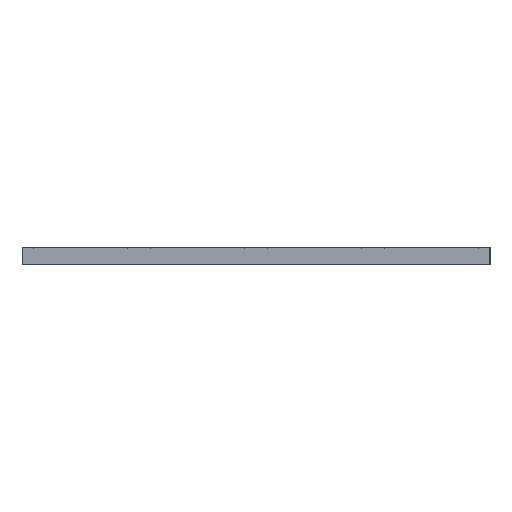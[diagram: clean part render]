
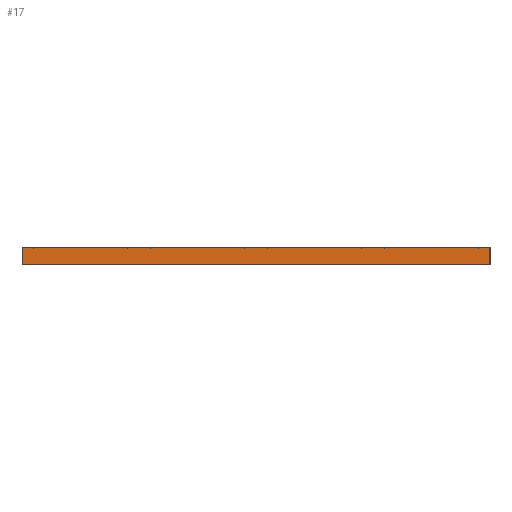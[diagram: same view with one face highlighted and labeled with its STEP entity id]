
A CAD part, left-side view. The second image highlights one B-rep face of the part: STEP entity #17.
In plain terms, the highlighted planar face has unit normal (-1, 0, 0).
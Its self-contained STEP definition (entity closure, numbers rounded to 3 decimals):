
#17 = ADVANCED_FACE('',(#18),#32,.F.);
#18 = FACE_BOUND('',#19,.F.);
#19 = EDGE_LOOP('',(#20,#55,#83,#111));
#20 = ORIENTED_EDGE('',*,*,#21,.F.);
#21 = EDGE_CURVE('',#22,#24,#26,.T.);
#22 = VERTEX_POINT('',#23);
#23 = CARTESIAN_POINT('',(-105.,-84.,0.));
#24 = VERTEX_POINT('',#25);
#25 = CARTESIAN_POINT('',(-105.,-84.,6.25));
#26 = SURFACE_CURVE('',#27,(#31,#43),.PCURVE_S1.);
#27 = LINE('',#28,#29);
#28 = CARTESIAN_POINT('',(-105.,-84.,0.));
#29 = VECTOR('',#30,1.);
#30 = DIRECTION('',(0.,0.,1.));
#31 = PCURVE('',#32,#37);
#32 = PLANE('',#33);
#33 = AXIS2_PLACEMENT_3D('',#34,#35,#36);
#34 = CARTESIAN_POINT('',(-105.,-84.,0.));
#35 = DIRECTION('',(1.,0.,-0.));
#36 = DIRECTION('',(0.,0.,1.));
#37 = DEFINITIONAL_REPRESENTATION('',(#38),#42);
#38 = LINE('',#39,#40);
#39 = CARTESIAN_POINT('',(0.,0.));
#40 = VECTOR('',#41,1.);
#41 = DIRECTION('',(1.,0.));
#42 = ( GEOMETRIC_REPRESENTATION_CONTEXT(2) 
PARAMETRIC_REPRESENTATION_CONTEXT() REPRESENTATION_CONTEXT('2D SPACE',''
  ) );
#43 = PCURVE('',#44,#49);
#44 = PLANE('',#45);
#45 = AXIS2_PLACEMENT_3D('',#46,#47,#48);
#46 = CARTESIAN_POINT('',(-105.,-84.,0.));
#47 = DIRECTION('',(-0.,1.,0.));
#48 = DIRECTION('',(0.,0.,1.));
#49 = DEFINITIONAL_REPRESENTATION('',(#50),#54);
#50 = LINE('',#51,#52);
#51 = CARTESIAN_POINT('',(0.,0.));
#52 = VECTOR('',#53,1.);
#53 = DIRECTION('',(1.,0.));
#54 = ( GEOMETRIC_REPRESENTATION_CONTEXT(2) 
PARAMETRIC_REPRESENTATION_CONTEXT() REPRESENTATION_CONTEXT('2D SPACE',''
  ) );
#55 = ORIENTED_EDGE('',*,*,#56,.T.);
#56 = EDGE_CURVE('',#22,#57,#59,.T.);
#57 = VERTEX_POINT('',#58);
#58 = CARTESIAN_POINT('',(-105.,84.,0.));
#59 = SURFACE_CURVE('',#60,(#64,#71),.PCURVE_S1.);
#60 = LINE('',#61,#62);
#61 = CARTESIAN_POINT('',(-105.,-84.,0.));
#62 = VECTOR('',#63,1.);
#63 = DIRECTION('',(-0.,1.,0.));
#64 = PCURVE('',#32,#65);
#65 = DEFINITIONAL_REPRESENTATION('',(#66),#70);
#66 = LINE('',#67,#68);
#67 = CARTESIAN_POINT('',(0.,0.));
#68 = VECTOR('',#69,1.);
#69 = DIRECTION('',(0.,-1.));
#70 = ( GEOMETRIC_REPRESENTATION_CONTEXT(2) 
PARAMETRIC_REPRESENTATION_CONTEXT() REPRESENTATION_CONTEXT('2D SPACE',''
  ) );
#71 = PCURVE('',#72,#77);
#72 = PLANE('',#73);
#73 = AXIS2_PLACEMENT_3D('',#74,#75,#76);
#74 = CARTESIAN_POINT('',(-105.,-84.,0.));
#75 = DIRECTION('',(0.,0.,1.));
#76 = DIRECTION('',(1.,0.,-0.));
#77 = DEFINITIONAL_REPRESENTATION('',(#78),#82);
#78 = LINE('',#79,#80);
#79 = CARTESIAN_POINT('',(0.,0.));
#80 = VECTOR('',#81,1.);
#81 = DIRECTION('',(0.,1.));
#82 = ( GEOMETRIC_REPRESENTATION_CONTEXT(2) 
PARAMETRIC_REPRESENTATION_CONTEXT() REPRESENTATION_CONTEXT('2D SPACE',''
  ) );
#83 = ORIENTED_EDGE('',*,*,#84,.T.);
#84 = EDGE_CURVE('',#57,#85,#87,.T.);
#85 = VERTEX_POINT('',#86);
#86 = CARTESIAN_POINT('',(-105.,84.,6.25));
#87 = SURFACE_CURVE('',#88,(#92,#99),.PCURVE_S1.);
#88 = LINE('',#89,#90);
#89 = CARTESIAN_POINT('',(-105.,84.,0.));
#90 = VECTOR('',#91,1.);
#91 = DIRECTION('',(0.,0.,1.));
#92 = PCURVE('',#32,#93);
#93 = DEFINITIONAL_REPRESENTATION('',(#94),#98);
#94 = LINE('',#95,#96);
#95 = CARTESIAN_POINT('',(0.,-168.));
#96 = VECTOR('',#97,1.);
#97 = DIRECTION('',(1.,0.));
#98 = ( GEOMETRIC_REPRESENTATION_CONTEXT(2) 
PARAMETRIC_REPRESENTATION_CONTEXT() REPRESENTATION_CONTEXT('2D SPACE',''
  ) );
#99 = PCURVE('',#100,#105);
#100 = PLANE('',#101);
#101 = AXIS2_PLACEMENT_3D('',#102,#103,#104);
#102 = CARTESIAN_POINT('',(-105.,84.,0.));
#103 = DIRECTION('',(-0.,1.,0.));
#104 = DIRECTION('',(0.,0.,1.));
#105 = DEFINITIONAL_REPRESENTATION('',(#106),#110);
#106 = LINE('',#107,#108);
#107 = CARTESIAN_POINT('',(0.,0.));
#108 = VECTOR('',#109,1.);
#109 = DIRECTION('',(1.,0.));
#110 = ( GEOMETRIC_REPRESENTATION_CONTEXT(2) 
PARAMETRIC_REPRESENTATION_CONTEXT() REPRESENTATION_CONTEXT('2D SPACE',''
  ) );
#111 = ORIENTED_EDGE('',*,*,#112,.F.);
#112 = EDGE_CURVE('',#24,#85,#113,.T.);
#113 = SURFACE_CURVE('',#114,(#118,#125),.PCURVE_S1.);
#114 = LINE('',#115,#116);
#115 = CARTESIAN_POINT('',(-105.,-84.,6.25));
#116 = VECTOR('',#117,1.);
#117 = DIRECTION('',(-0.,1.,0.));
#118 = PCURVE('',#32,#119);
#119 = DEFINITIONAL_REPRESENTATION('',(#120),#124);
#120 = LINE('',#121,#122);
#121 = CARTESIAN_POINT('',(6.25,0.));
#122 = VECTOR('',#123,1.);
#123 = DIRECTION('',(0.,-1.));
#124 = ( GEOMETRIC_REPRESENTATION_CONTEXT(2) 
PARAMETRIC_REPRESENTATION_CONTEXT() REPRESENTATION_CONTEXT('2D SPACE',''
  ) );
#125 = PCURVE('',#126,#131);
#126 = PLANE('',#127);
#127 = AXIS2_PLACEMENT_3D('',#128,#129,#130);
#128 = CARTESIAN_POINT('',(-105.,-84.,6.25));
#129 = DIRECTION('',(0.,0.,1.));
#130 = DIRECTION('',(1.,0.,-0.));
#131 = DEFINITIONAL_REPRESENTATION('',(#132),#136);
#132 = LINE('',#133,#134);
#133 = CARTESIAN_POINT('',(0.,0.));
#134 = VECTOR('',#135,1.);
#135 = DIRECTION('',(0.,1.));
#136 = ( GEOMETRIC_REPRESENTATION_CONTEXT(2) 
PARAMETRIC_REPRESENTATION_CONTEXT() REPRESENTATION_CONTEXT('2D SPACE',''
  ) );
